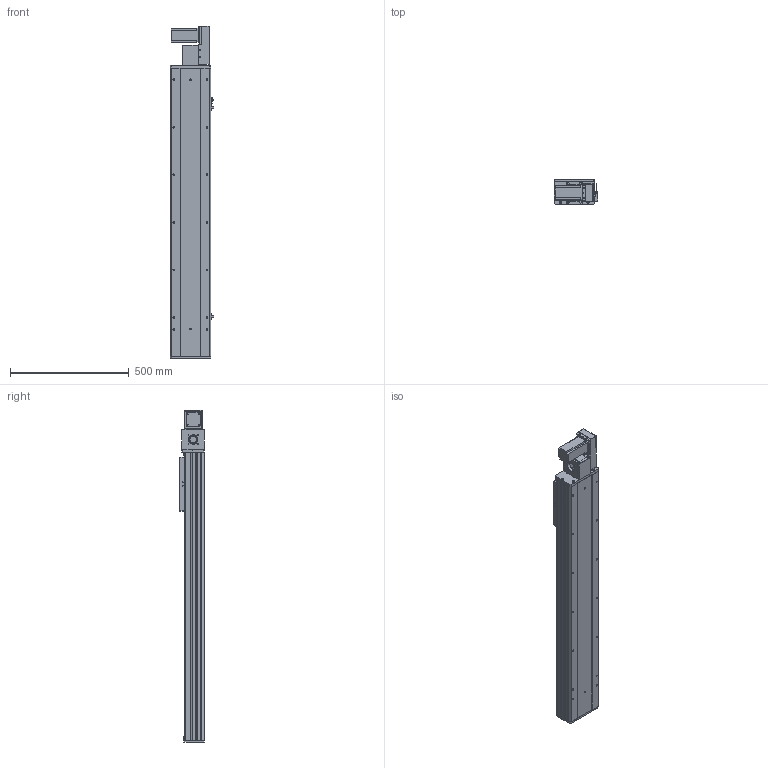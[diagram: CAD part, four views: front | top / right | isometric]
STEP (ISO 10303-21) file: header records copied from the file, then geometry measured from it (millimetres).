
FILE_DESCRIPTION (( 'STEP AP203' ), '1' );
FILE_NAME ('Y170CB-D105-S900-BR-P400W.STEP', '2020-02-19T09:05:50', ( '微软用户' ), ( '微软中国' ), 'SwSTEP 2.0', 'SolidWorks 2017', '' );
FILE_SCHEMA (( 'CONFIG_CONTROL_DESIGN' ));
Length unit declared in the file: millimetre
Products named in the file (17): 0B-萇儂楊擘啣; 70B喘謫眊----; B-源倛裔啣; 17B-耜蚾蟀諉啣----; san松下电机400不带刹车----; Y70俋欶BR----; 70CB-掛极-; --70CB --喘謫眊楊擘啣-; 70CB-耜裔啣-; 70C--詩湍揤踡え-; 70CB--耜裔; 70C-雄赽釱-奻-; 0C--雄赽釱俋欶-170; 70CB-詩湍--; Y100-135俋离換覜ん--; Y170CB-陔俋离換覜結え---; Y170CB-D105-S900-BR-P400W
Assembly tree (20 placements, depth 2):
  Y170CB-D105-S900-BR-P400W
    70B喘謫眊----
    B-源倛裔啣
    17B-耜蚾蟀諉啣----
    0B-萇儂楊擘啣
    san松下电机400不带刹车----
    Y70俋欶BR----
    70CB-掛极-
    --70CB --喘謫眊楊擘啣-
    70CB-耜裔啣-  x2
    70C--詩湍揤踡え-  x2
    70CB--耜裔
    70C-雄赽釱-奻-
    0C--雄赽釱俋欶-170
    70CB-詩湍--
    Y100-135俋离換覜ん--  x3
    Y170CB-陔俋离換覜結え---
Bounding box: 183.5 x 107 x 1397 mm (x, y, z)
Volume: 6138008.2 mm3; surface area: 2190562.5 mm2
Topology: 20 solids, 20 shells, 993 faces, 2657 edges, 1762 vertices
Faces by surface type: cylinder 507, plane 462, cone 24
Entity records: 31459 total; most frequent: CARTESIAN_POINT 5781, DIRECTION 5116, ORIENTED_EDGE 4796, EDGE_CURVE 2398, AXIS2_PLACEMENT_3D 1865, VERTEX_POINT 1592, LINE 1386, VECTOR 1386
